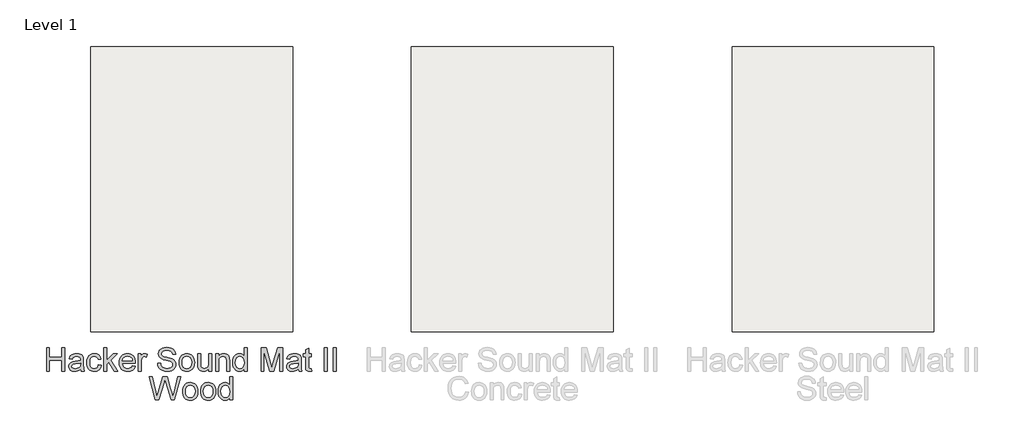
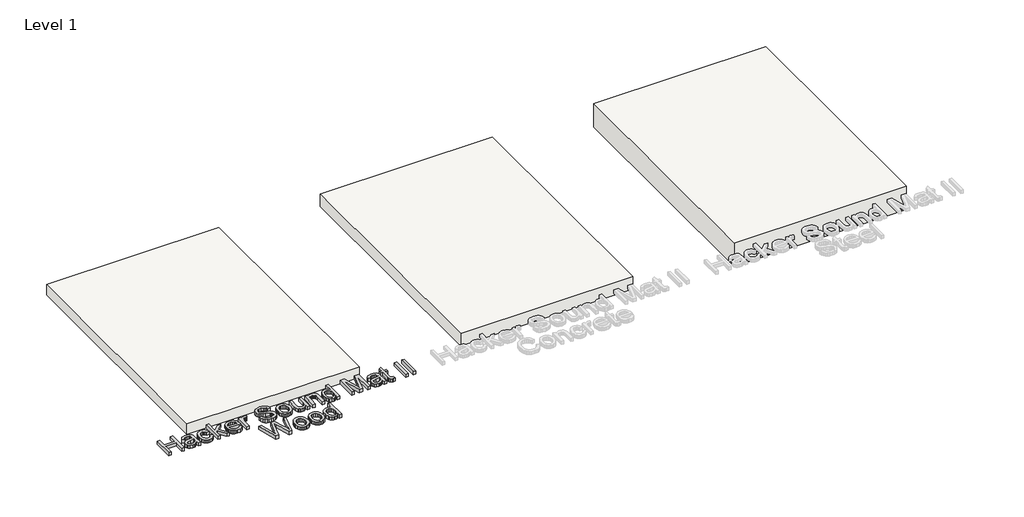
# One storey, part 1 of 3: 3 slabs, 1 proxy.
"""IFC4 building model written with IfcOpenShell, lengths in millimetres."""

from ifc_helpers import new_model, si_unit, frame, origin, origin_with_axes, place, context, project, spatial, polyline, outline, extrude, element, save

model = new_model("IFC4")

# Units and contexts
model_context = context("Model", 3, world=origin())
ifc_project = project(units=[si_unit("LENGTHUNIT", "METRE", prefix="MILLI")], contexts=[model_context])

# Site, building, storey
site = spatial("IfcSite", under=ifc_project)
building = spatial("IfcBuilding", under=site)
storey = spatial("IfcBuildingStorey", under=building, Name="Level 1", Elevation=0.0)

# Proxy
placement = place(None, origin())
element("IfcBuildingElementProxy", 1, Name="600mm Arial", ObjectType="600mm Arial", at=placement, inside=storey, context=model_context, shape_type="SweptSolid", body=[
    extrude(outline(polyline([(3005.5560774, -15959.6490726), (3005.5560774, -15659.5383034), (3043.0699235, -15659.5383034), (3043.0699235, -15781.4583034), (3202.5037697, -15781.4583034), (3202.5037697, -15659.5383034), (3240.0176159, -15659.5383034), (3240.0176159, -15959.6490726), (3202.5037697, -15959.6490726), (3202.5037697, -15818.9721496), (3043.0699235, -15818.9721496), (3043.0699235, -15959.6490726), (3005.5560774, -15959.6490726)])), origin_with_axes(), (0.0, 0.0, 1.0), 50.8),
    extrude(outline(polyline([(3441.6545389, -15931.513688), (3423.7310534, -15946.8819092), (3405.2763659, -15956.9381111), (3385.8691784, -15962.4882553), (3365.0881928, -15964.3383034), (3333.7381207, -15959.8871976), (3310.6125197, -15946.5338803), (3296.3524957, -15926.2566207), (3291.5991543, -15901.033688), (3293.3942505, -15885.4822938), (3298.7795389, -15871.3596496), (3307.086438, -15859.2702265), (3317.6463659, -15849.8184957), (3343.9133851, -15837.5092649), (3376.3716543, -15831.8675342), (3414.7280966, -15825.9327265), (3441.4347312, -15818.9721496), (3441.6545389, -15810.6194572), (3439.0717985, -15793.877438), (3431.3235774, -15782.923688), (3413.9954043, -15774.7908034), (3389.8531928, -15772.0798419), (3367.5060774, -15773.8840967), (3351.8997312, -15779.2968611), (3341.2573755, -15789.3072697), (3333.8022312, -15804.9044572), (3296.2883851, -15800.2152265), (3302.800188, -15779.6998419), (3312.5175197, -15763.5806111), (3326.347087, -15751.253063), (3345.1955966, -15742.1127265), (3368.2479284, -15736.4526784), (3394.688962, -15734.5659957), (3420.0492745, -15736.2328707), (3440.1525197, -15741.2334957), (3455.3100918, -15748.7527505), (3465.8333851, -15757.9755149), (3472.8122793, -15769.378039), (3477.3366543, -15783.4365726), (3479.1683851, -15816.261188), (3479.1683851, -15862.933688), (3481.0733851, -15928.1066688), (3488.5468466, -15959.6490726), (3451.0330005, -15959.6490726), (3441.6545389, -15931.513688)]), holes=[polyline([(3441.6545389, -15856.4859957), (3381.1341543, -15867.9892649), (3348.8590582, -15874.0706111), (3334.2418466, -15883.9619572), (3329.1130005, -15898.3959957), (3331.9063899, -15909.5512361), (3340.2865582, -15918.6915726), (3354.0703322, -15924.7912361), (3373.0745389, -15926.8244572), (3393.2235774, -15924.5805871), (3411.0280005, -15917.8489765), (3425.4620389, -15907.9301544), (3435.4999235, -15896.1246496), (3439.9510293, -15883.9619572), (3441.4347312, -15867.1100342), (3441.6545389, -15856.4859957)])]), origin_with_axes(), (0.0, 0.0, 1.0), 50.8),
    extrude(outline(polyline([(3671.4268466, -15879.9321496), (3708.9406928, -15884.6213803), (3698.4815101, -15917.9863563), (3678.8270389, -15943.2001303), (3651.8273274, -15959.0537601), (3619.3324235, -15964.3383034), (3598.292706, -15962.4951243), (3579.4281687, -15956.9655871), (3562.7388118, -15947.7496916), (3548.2246351, -15934.847438), (3536.4763719, -15918.5015306), (3528.0847553, -15898.9546736), (3523.0497853, -15876.2068671), (3521.371462, -15850.2581111), (3524.2381207, -15816.8748178), (3532.8380966, -15787.9426303), (3547.3087697, -15764.5789044), (3567.7875197, -15747.9009957), (3592.2869187, -15737.8997457), (3618.8195389, -15734.5659957), (3650.5176399, -15739.1453226), (3675.8596351, -15752.8833034), (3694.039563, -15775.0472457), (3704.251462, -15804.9044572), (3666.7376159, -15809.593688), (3659.932736, -15793.2271736), (3649.3361735, -15781.494938), (3635.5340822, -15774.4336159), (3619.1126159, -15772.0798419), (3594.8696591, -15776.7141207), (3575.6273274, -15790.6169572), (3563.070813, -15814.5393611), (3558.8853082, -15849.2323419), (3562.9792264, -15884.392414), (3575.2609812, -15908.3972457), (3594.1552841, -15922.2176544), (3618.0868466, -15926.8244572), (3637.5123514, -15923.9486399), (3653.4392505, -15915.321188), (3665.0249476, -15900.7222938), (3671.4268466, -15879.9321496)])), origin_with_axes(), (0.0, 0.0, 1.0), 50.8),
    extrude(outline(polyline([(3741.7653082, -15959.6490726), (3741.7653082, -15659.5383034), (3779.2791543, -15659.5383034), (3779.2791543, -15820.8038803), (3863.3922312, -15739.2552265), (3915.2668466, -15739.2552265), (3830.1280005, -15821.8296496), (3919.9560774, -15959.6490726), (3876.1410774, -15959.6490726), (3803.2381928, -15847.9134957), (3779.2791543, -15871.1398419), (3779.2791543, -15959.6490726), (3741.7653082, -15959.6490726)])), origin_with_axes(), (0.0, 0.0, 1.0), 50.8),
    extrude(outline(polyline([(4107.0856928, -15893.9998419), (4143.8668466, -15898.6890726), (4130.6142745, -15926.4031592), (4109.4669428, -15947.1200342), (4080.9011014, -15960.0337361), (4045.3930005, -15964.3383034), (4022.1162817, -15962.4813863), (4001.3765101, -15956.9106351), (3983.1736856, -15947.6260498), (3967.5078082, -15934.6276303), (3954.9100798, -15918.2771435), (3945.9117024, -15898.9363563), (3940.512676, -15876.6052685), (3938.7130005, -15851.2838803), (3940.5309933, -15825.1038683), (3945.9849716, -15802.0286399), (3955.0749356, -15782.0581952), (3967.8008851, -15765.1925342), (3983.4255485, -15751.7934236), (4001.2116543, -15742.2226303), (4021.1592024, -15736.4801544), (4043.2681928, -15734.5659957), (4064.6650978, -15736.475575), (4084.0150437, -15742.204313), (4101.3180305, -15751.7522096), (4116.5740582, -15765.1192649), (4129.0275377, -15781.9482914), (4137.9228803, -15801.8821015), (4143.2600858, -15824.9206952), (4145.0391543, -15851.0640726), (4144.8193466, -15861.1752265), (3976.2268466, -15861.1752265), (3982.7203322, -15889.2556592), (3997.8046351, -15909.8992649), (4019.5747553, -15922.5931592), (4046.1256928, -15926.8244572), (4066.0915582, -15924.8645053), (4082.9068466, -15918.9846496), (4096.5715582, -15908.8185438), (4107.0856928, -15893.9998419)]), holes=[polyline([(3976.2268466, -15823.6613803), (4107.5253082, -15823.6613803), (4102.4514139, -15803.8420534), (4092.5051159, -15789.6644572), (4070.6342505, -15776.4759957), (4043.1216543, -15772.0798419), (4017.834611, -15775.5876063), (3996.9254043, -15786.1108996), (3982.3906207, -15802.5140486), (3976.2268466, -15823.6613803)])]), origin_with_axes(), (0.0, 0.0, 1.0), 50.8),
    extrude(outline(polyline([(4182.5530005, -15959.6490726), (4182.5530005, -15739.2552265), (4215.3776159, -15739.2552265), (4215.3776159, -15771.8600342), (4227.5036735, -15752.9565726), (4238.6772312, -15741.8196496), (4249.8874235, -15736.3794092), (4262.1233851, -15734.5659957), (4280.8070389, -15737.4601303), (4299.7837697, -15746.1425342), (4287.2547312, -15779.7731111), (4274.0662697, -15774.0031592), (4260.8778082, -15772.0798419), (4249.6767745, -15773.9298899), (4239.6663659, -15779.4800342), (4231.5792745, -15788.3089765), (4226.1481928, -15799.9954188), (4221.5871832, -15820.9504188), (4220.0668466, -15843.8104188), (4220.0668466, -15959.6490726), (4182.5530005, -15959.6490726)])), origin_with_axes(), (0.0, 0.0, 1.0), 50.8),
    extrude(outline(polyline([(4431.0822312, -15856.4859957), (4468.5960774, -15856.4859957), (4472.9006447, -15877.3036159), (4480.6855005, -15894.0364765), (4492.8298755, -15907.3165246), (4510.2130005, -15917.7757072), (4531.4610774, -15924.5622697), (4555.2003082, -15926.8244572), (4576.1003562, -15925.111789), (4594.3993466, -15919.9737842), (4609.2272072, -15911.8408996), (4619.7138659, -15901.1435919), (4625.9509091, -15888.8618371), (4628.0299235, -15875.9756111), (4626.4729524, -15863.4190967), (4621.8020389, -15852.5660919), (4612.3136735, -15843.3066928), (4596.3043466, -15835.5309957), (4541.6821351, -15821.2068611), (4505.8260053, -15811.7276544), (4482.8835774, -15802.7063803), (4464.2090822, -15790.0857553), (4450.9748274, -15774.7908034), (4443.0892264, -15757.1512361), (4440.4606928, -15737.4967649), (4443.7120149, -15715.5251544), (4453.4659812, -15695.0372457), (4469.4661495, -15677.672438), (4491.4560774, -15665.0701303), (4517.8513178, -15657.4043371), (4547.0674235, -15654.8490726), (4578.7197312, -15657.5233996), (4606.4155005, -15665.5463803), (4629.1655966, -15678.7531592), (4645.9808851, -15696.9788803), (4656.6232409, -15719.0878707), (4660.8545389, -15743.9444572), (4623.3406928, -15743.9444572), (4616.4533851, -15721.5607072), (4602.0926159, -15705.4048419), (4579.6539139, -15695.6233996), (4548.5328082, -15692.3629188), (4516.6790101, -15695.5867649), (4494.826462, -15705.2583034), (4482.1875197, -15719.4908515), (4477.9745389, -15736.3977265), (4480.9602601, -15750.8134476), (4489.9174235, -15762.4083034), (4511.0922312, -15772.7758996), (4551.1705005, -15783.3633034), (4592.5309812, -15793.4195053), (4617.5524235, -15802.1934957), (4638.9378803, -15815.8032553), (4653.8573274, -15832.6002265), (4662.6221591, -15852.4012361), (4665.5437697, -15875.0231111), (4662.1825437, -15898.1487121), (4652.0988659, -15919.9005149), (4635.7048755, -15938.6208034), (4613.412712, -15952.6518611), (4586.6053322, -15961.4166928), (4556.6656928, -15964.3383034), (4519.9120149, -15961.1877265), (4489.6609812, -15951.7359957), (4465.564563, -15935.9464765), (4447.2747312, -15913.7825342), (4435.533337, -15886.7828226), (4431.0822312, -15856.4859957)])), origin_with_axes(), (0.0, 0.0, 1.0), 50.8),
    extrude(outline(polyline([(4707.7468466, -15849.4521496), (4709.7754885, -15820.9092048), (4715.8614139, -15796.3136399), (4726.0046231, -15775.6654548), (4740.2051159, -15758.9646496), (4754.5017745, -15748.2902385), (4770.2821351, -15740.6656592), (4787.5461976, -15736.0909116), (4806.293962, -15734.5659957), (4826.99023, -15736.4229128), (4845.7036495, -15741.993664), (4862.4342204, -15751.2782493), (4877.1819428, -15764.2766688), (4889.2187036, -15780.549307), (4897.8163899, -15799.6565486), (4902.9750017, -15821.5983935), (4904.6945389, -15846.3748419), (4901.6538659, -15884.2733515), (4892.5318466, -15913.1231111), (4877.5940822, -15934.7283755), (4857.1061735, -15950.8933996), (4832.7716303, -15960.9770774), (4806.293962, -15964.3383034), (4785.2954584, -15962.4882553), (4766.4080245, -15956.9381111), (4749.6316603, -15947.6878707), (4734.9663659, -15934.7375342), (4723.0578262, -15918.3069092), (4714.5517264, -15898.6158034), (4709.4480666, -15875.6642169), (4707.7468466, -15849.4521496)]), holes=[polyline([(4745.2606928, -15849.3788803), (4749.6018947, -15883.3300101), (4762.6255005, -15907.5180149), (4782.2250197, -15921.9978467), (4806.293962, -15926.8244572), (4830.2530005, -15921.9703707), (4849.8158851, -15907.4081111), (4862.8394909, -15882.8995534), (4867.1806928, -15848.2065726), (4862.8120149, -15815.2445774), (4849.7059812, -15791.3862842), (4830.1156207, -15776.9064524), (4806.293962, -15772.0798419), (4782.2250197, -15776.8881351), (4762.6255005, -15791.3130149), (4749.6018947, -15815.4460678), (4745.2606928, -15849.3788803)])]), origin_with_axes(), (0.0, 0.0, 1.0), 50.8),
    extrude(outline(polyline([(5087.5745389, -15959.6490726), (5087.5745389, -15921.7688803), (5074.0014139, -15940.3930029), (5058.1935774, -15953.6959476), (5040.1510293, -15961.6777145), (5019.8737697, -15964.3383034), (5001.6022553, -15962.469938), (4984.5946351, -15956.8648419), (4970.3254524, -15948.4388803), (4960.2692505, -15938.1079188), (4949.0956928, -15910.4854188), (4946.8976159, -15875.6092649), (4946.8976159, -15739.2552265), (4984.411462, -15739.2552265), (4984.411462, -15857.9513803), (4986.6828082, -15896.1979188), (4992.1505245, -15908.9559236), (5001.5198274, -15918.654938), (5014.1679284, -15924.7820774), (5029.4720389, -15926.8244572), (5045.6553803, -15924.7362842), (5060.7946351, -15918.4717649), (5073.2778803, -15908.6078947), (5081.4931928, -15895.7216688), (5086.0542024, -15878.0729428), (5087.5745389, -15853.9215726), (5087.5745389, -15739.2552265), (5125.0883851, -15739.2552265), (5125.0883851, -15959.6490726), (5087.5745389, -15959.6490726)])), origin_with_axes(), (0.0, 0.0, 1.0), 50.8),
    extrude(outline(polyline([(5176.6699235, -15959.6490726), (5176.6699235, -15739.2552265), (5214.1837697, -15739.2552265), (5214.1837697, -15770.0283034), (5227.2165341, -15754.5135438), (5242.8686735, -15743.4315726), (5261.140188, -15736.7823899), (5282.0310774, -15734.5659957), (5300.5223995, -15736.3519332), (5317.4567505, -15741.7097457), (5331.5793947, -15749.9708515), (5341.6355966, -15760.4666688), (5352.8824235, -15788.0525342), (5354.8606928, -15824.3208034), (5354.8606928, -15959.6490726), (5317.3468466, -15959.6490726), (5317.3468466, -15829.3763803), (5313.023962, -15796.1854188), (5307.043361, -15786.3032313), (5297.7473274, -15778.637438), (5285.8319187, -15773.7192409), (5271.9931928, -15772.0798419), (5250.0215822, -15775.7616207), (5231.2921351, -15786.8069572), (5223.8072252, -15795.823652), (5218.460861, -15808.1466207), (5214.1837697, -15842.7113803), (5214.1837697, -15959.6490726), (5176.6699235, -15959.6490726)])), origin_with_axes(), (0.0, 0.0, 1.0), 50.8),
    extrude(outline(polyline([(5542.4299235, -15959.6490726), (5542.4299235, -15924.2600342), (5531.2059933, -15941.794277), (5517.6099716, -15954.3187361), (5501.6418586, -15961.8334116), (5483.3016543, -15964.3383034), (5459.0495389, -15960.7114765), (5436.848962, -15949.8309957), (5418.0554043, -15932.4570294), (5404.0243466, -15909.3497457), (5395.2869909, -15881.4433274), (5392.3745389, -15849.6719572), (5395.0580245, -15818.2944092), (5403.1084812, -15789.9575342), (5416.5167505, -15766.2732553), (5435.2736735, -15748.8534957), (5457.9596591, -15738.1378707), (5483.1551159, -15734.5659957), (5501.5090582, -15737.1212601), (5517.7381928, -15744.7870534), (5531.4944909, -15756.5376063), (5542.4299235, -15771.3471496), (5542.4299235, -15659.5383034), (5579.9437697, -15659.5383034), (5579.9437697, -15959.6490726), (5542.4299235, -15959.6490726)]), holes=[polyline([(5429.8883851, -15849.5254188), (5434.1196832, -15883.4582313), (5446.8135774, -15907.5912842), (5465.2591062, -15922.016164), (5486.7453082, -15926.8244572), (5508.2223514, -15922.2359717), (5526.2007889, -15908.4705149), (5538.3726399, -15885.2716447), (5542.4299235, -15852.3829188), (5538.2993707, -15816.4260438), (5525.907712, -15791.496188), (5507.4713418, -15776.9339284), (5485.2066543, -15772.0798419), (5463.5006447, -15776.7415967), (5445.7145389, -15790.7268611), (5433.8449235, -15814.7500101), (5429.8883851, -15849.5254188)])]), origin_with_axes(), (0.0, 0.0, 1.0), 50.8),
    extrude(outline(polyline([(5758.1345389, -15959.6490726), (5758.1345389, -15659.5383034), (5822.6847312, -15659.5383034), (5884.0843466, -15871.0665726), (5896.4668466, -15915.2479188), (5909.8751159, -15867.4031111), (5970.248962, -15659.5383034), (6034.7991543, -15659.5383034), (6034.7991543, -15959.6490726), (5997.2853082, -15959.6490726), (5997.2853082, -15697.0521496), (5921.8912697, -15959.6490726), (5871.0424235, -15959.6490726), (5795.6483851, -15697.0521496), (5795.6483851, -15959.6490726), (5758.1345389, -15959.6490726)])), origin_with_axes(), (0.0, 0.0, 1.0), 50.8),
    extrude(outline(polyline([(6236.4360774, -15931.513688), (6218.5125918, -15946.8819092), (6200.0579043, -15956.9381111), (6180.6507168, -15962.4882553), (6159.8697312, -15964.3383034), (6128.5196591, -15959.8871976), (6105.3940582, -15946.5338803), (6091.1340341, -15926.2566207), (6086.3806928, -15901.033688), (6088.1757889, -15885.4822938), (6093.5610774, -15871.3596496), (6101.8679764, -15859.2702265), (6112.4279043, -15849.8184957), (6138.6949235, -15837.5092649), (6171.1531928, -15831.8675342), (6209.5096351, -15825.9327265), (6236.2162697, -15818.9721496), (6236.4360774, -15810.6194572), (6233.853337, -15793.877438), (6226.1051159, -15782.923688), (6208.7769428, -15774.7908034), (6184.6347312, -15772.0798419), (6162.2876159, -15773.8840967), (6146.6812697, -15779.2968611), (6136.0389139, -15789.3072697), (6128.5837697, -15804.9044572), (6091.0699235, -15800.2152265), (6097.5817264, -15779.6998419), (6107.2990582, -15763.5806111), (6121.1286255, -15751.253063), (6139.9771351, -15742.1127265), (6163.0294668, -15736.4526784), (6189.4705005, -15734.5659957), (6214.830813, -15736.2328707), (6234.9340582, -15741.2334957), (6250.0916303, -15748.7527505), (6260.6149235, -15757.9755149), (6267.5938178, -15769.378039), (6272.1181928, -15783.4365726), (6273.9499235, -15816.261188), (6273.9499235, -15862.933688), (6275.8549235, -15928.1066688), (6283.3283851, -15959.6490726), (6245.8145389, -15959.6490726), (6236.4360774, -15931.513688)]), holes=[polyline([(6236.4360774, -15856.4859957), (6175.9156928, -15867.9892649), (6143.6405966, -15874.0706111), (6129.0233851, -15883.9619572), (6123.8945389, -15898.3959957), (6126.6879284, -15909.5512361), (6135.0680966, -15918.6915726), (6148.8518707, -15924.7912361), (6167.8560774, -15926.8244572), (6188.0051159, -15924.5805871), (6205.8095389, -15917.8489765), (6220.2435774, -15907.9301544), (6230.281462, -15896.1246496), (6234.7325678, -15883.9619572), (6236.2162697, -15867.1100342), (6236.4360774, -15856.4859957)])]), origin_with_axes(), (0.0, 0.0, 1.0), 50.8),
    extrude(outline(polyline([(6405.2483851, -15928.3631111), (6409.9376159, -15960.7481111), (6381.8755005, -15964.3383034), (6363.869587, -15962.7813322), (6350.4430005, -15958.1104188), (6340.9546351, -15950.9117169), (6334.7633851, -15941.7713803), (6331.3563659, -15926.0734476), (6330.2206928, -15899.2019572), (6330.2206928, -15776.7690726), (6302.0853082, -15776.7690726), (6302.0853082, -15739.2552265), (6330.2206928, -15739.2552265), (6330.2206928, -15685.6954188), (6367.7345389, -15663.6413803), (6367.7345389, -15739.2552265), (6405.2483851, -15739.2552265), (6405.2483851, -15776.7690726), (6367.7345389, -15776.7690726), (6367.7345389, -15898.1029188), (6369.7128082, -15917.4459957), (6376.1238659, -15924.2966688), (6388.9093466, -15926.8244572), (6405.2483851, -15928.3631111)])), origin_with_axes(), (0.0, 0.0, 1.0), 50.8),
    extrude(outline(polyline([(6569.371462, -15959.6490726), (6569.371462, -15659.5383034), (6606.8853082, -15659.5383034), (6606.8853082, -15959.6490726), (6569.371462, -15959.6490726)])), origin_with_axes(), (0.0, 0.0, 1.0), 50.8),
    extrude(outline(polyline([(6686.6022312, -15959.6490726), (6686.6022312, -15659.5383034), (6724.1160774, -15659.5383034), (6724.1160774, -15959.6490726), (6686.6022312, -15959.6490726)])), origin_with_axes(), (0.0, 0.0, 1.0), 50.8),
    extrude(outline(polyline([(4402.7270389, -16330.0983034), (4320.8853082, -16029.9875342), (4359.571462, -16029.9875342), (4407.0499235, -16227.2283034), (4421.7037697, -16288.1150342), (4437.3833851, -16234.2621496), (4496.8780005, -16029.9875342), (4552.6358851, -16029.9875342), (4595.8647312, -16178.0646496), (4614.3835293, -16233.0165726), (4628.0299235, -16288.1150342), (4642.2441543, -16228.9867649), (4690.1622312, -16029.9875342), (4728.8483851, -16029.9875342), (4646.9333851, -16330.0983034), (4606.8551159, -16330.0983034), (4534.9047312, -16098.5675342), (4524.8668466, -16066.2558034), (4513.5833851, -16105.1617649), (4448.0074235, -16330.0983034), (4402.7270389, -16330.0983034)])), origin_with_axes(), (0.0, 0.0, 1.0), 50.8),
    extrude(outline(polyline([(4752.2945389, -16219.9013803), (4754.3231808, -16191.3584356), (4760.4091062, -16166.7628707), (4770.5523154, -16146.1146856), (4784.7528082, -16129.4138803), (4799.0494668, -16118.7394693), (4814.8298274, -16111.1148899), (4832.0938899, -16106.5401423), (4850.8416543, -16105.0152265), (4871.5379223, -16106.8721435), (4890.2513418, -16112.4428947), (4906.9819127, -16121.7274801), (4921.7296351, -16134.7258996), (4933.7663959, -16150.9985378), (4942.3640822, -16170.1057794), (4947.522694, -16192.0476243), (4949.2422312, -16216.8240726), (4946.2015582, -16254.7225822), (4937.0795389, -16283.5723419), (4922.1417745, -16305.1776063), (4901.6538659, -16321.3426303), (4877.3193226, -16331.4263082), (4850.8416543, -16334.7875342), (4829.8431507, -16332.9374861), (4810.9557168, -16327.3873419), (4794.1793526, -16318.1371015), (4779.5140582, -16305.1867649), (4767.6055185, -16288.7561399), (4759.0994187, -16269.0650342), (4753.9957589, -16246.1134476), (4752.2945389, -16219.9013803)]), holes=[polyline([(4789.8083851, -16219.8281111), (4794.149587, -16253.7792409), (4807.1731928, -16277.9672457), (4826.772712, -16292.4470774), (4850.8416543, -16297.273688), (4874.8006928, -16292.4196015), (4894.3635774, -16277.8573419), (4907.3871832, -16253.3487842), (4911.7283851, -16218.6558034), (4907.3597072, -16185.6938082), (4894.2536735, -16161.8355149), (4874.663313, -16147.3556832), (4850.8416543, -16142.5290726), (4826.772712, -16147.3373659), (4807.1731928, -16161.7622457), (4794.149587, -16185.8952986), (4789.8083851, -16219.8281111)])]), origin_with_axes(), (0.0, 0.0, 1.0), 50.8),
    extrude(outline(polyline([(4982.0668466, -16219.9013803), (4984.0954885, -16191.3584356), (4990.1814139, -16166.7628707), (5000.3246231, -16146.1146856), (5014.5251159, -16129.4138803), (5028.8217745, -16118.7394693), (5044.6021351, -16111.1148899), (5061.8661976, -16106.5401423), (5080.613962, -16105.0152265), (5101.31023, -16106.8721435), (5120.0236495, -16112.4428947), (5136.7542204, -16121.7274801), (5151.5019428, -16134.7258996), (5163.5387036, -16150.9985378), (5172.1363899, -16170.1057794), (5177.2950017, -16192.0476243), (5179.0145389, -16216.8240726), (5175.9738659, -16254.7225822), (5166.8518466, -16283.5723419), (5151.9140822, -16305.1776063), (5131.4261735, -16321.3426303), (5107.0916303, -16331.4263082), (5080.613962, -16334.7875342), (5059.6154584, -16332.9374861), (5040.7280245, -16327.3873419), (5023.9516603, -16318.1371015), (5009.2863659, -16305.1867649), (4997.3778262, -16288.7561399), (4988.8717264, -16269.0650342), (4983.7680666, -16246.1134476), (4982.0668466, -16219.9013803)]), holes=[polyline([(5019.5806928, -16219.8281111), (5023.9218947, -16253.7792409), (5036.9455005, -16277.9672457), (5056.5450197, -16292.4470774), (5080.613962, -16297.273688), (5104.5730005, -16292.4196015), (5124.1358851, -16277.8573419), (5137.1594909, -16253.3487842), (5141.5006928, -16218.6558034), (5137.1320149, -16185.6938082), (5124.0259812, -16161.8355149), (5104.4356207, -16147.3556832), (5080.613962, -16142.5290726), (5056.5450197, -16147.3373659), (5036.9455005, -16161.7622457), (5023.9218947, -16185.8952986), (5019.5806928, -16219.8281111)])]), origin_with_axes(), (0.0, 0.0, 1.0), 50.8),
    extrude(outline(polyline([(5357.2053082, -16330.0983034), (5357.2053082, -16294.7092649), (5345.9813779, -16312.2435077), (5332.3853562, -16324.7679669), (5316.4172433, -16332.2826423), (5298.0770389, -16334.7875342), (5273.8249235, -16331.1607072), (5251.6243466, -16320.2802265), (5232.8307889, -16302.9062601), (5218.7997312, -16279.7989765), (5210.0623755, -16251.8925582), (5207.1499235, -16220.121188), (5209.8334091, -16188.7436399), (5217.8838659, -16160.4067649), (5231.2921351, -16136.7224861), (5250.0490582, -16119.3027265), (5272.7350437, -16108.5871015), (5297.9305005, -16105.0152265), (5316.2844428, -16107.5704909), (5332.5135774, -16115.2362842), (5346.2698755, -16126.9868371), (5357.2053082, -16141.7963803), (5357.2053082, -16029.9875342), (5394.7191543, -16029.9875342), (5394.7191543, -16330.0983034), (5357.2053082, -16330.0983034)]), holes=[polyline([(5244.6637697, -16219.9746496), (5248.8950678, -16253.9074621), (5261.588962, -16278.0405149), (5280.0344909, -16292.4653947), (5301.5206928, -16297.273688), (5322.997736, -16292.6852024), (5340.9761735, -16278.9197457), (5353.1480245, -16255.7208755), (5357.2053082, -16222.8321496), (5353.0747553, -16186.8752746), (5340.6830966, -16161.9454188), (5322.2467264, -16147.3831592), (5299.9820389, -16142.5290726), (5278.2760293, -16147.1908274), (5260.4899235, -16161.1760919), (5248.6203082, -16185.1992409), (5244.6637697, -16219.9746496)])]), origin_with_axes(), (0.0, 0.0, 1.0), 50.8),
])

# Slabs
element("IfcSlab", 2, ObjectType="Hacker - Wood - Subfloor - Hacker Sound Mat II", at=placement, inside=storey, context=model_context, shape_type="SweptSolid", body=[
    extrude(outline(polyline([(6164.9253082, -11794.0490726), (6164.9253082, -15451.6490726), (3574.1253082, -15451.6490726), (3574.1253082, -11794.0490726), (6164.9253082, -11794.0490726)])), frame((0.0, 0.0, -168.4734375), z_axis=(0.0, 0.0, 1.0), x_axis=(1.0, 0.0, 0.0)), (0.0, 0.0, 1.0), 168.4734375),
])
element("IfcSlab", 3, ObjectType="Hacker - Concrete - Subfloor - Hacker Sound Mat II", at=placement, inside=storey, context=model_context, shape_type="SweptSolid", body=[
    extrude(outline(polyline([(10279.7253082, -11794.0490726), (10279.7253082, -15451.6490726), (7688.9253082, -15451.6490726), (7688.9253082, -11794.0490726), (10279.7253082, -11794.0490726)])), frame((0.0, 0.0, -196.9492188), z_axis=(0.0, 0.0, 1.0), x_axis=(1.0, 0.0, 0.0)), (0.0, 0.0, 1.0), 196.9492188),
])
element("IfcSlab", 4, ObjectType="Hacker - Steel - Subfloor - Hacker Sound Mat II", at=placement, inside=storey, context=model_context, shape_type="SweptSolid", body=[
    extrude(outline(polyline([(14394.5253082, -11794.0490726), (14394.5253082, -15451.6490726), (11803.7253082, -15451.6490726), (11803.7253082, -11794.0490726), (14394.5253082, -11794.0490726)])), frame((0.0, 0.0, -377.9242187), z_axis=(0.0, 0.0, 1.0), x_axis=(1.0, 0.0, 0.0)), (0.0, 0.0, 1.0), 377.9242187),
])

save(model, "model.ifc")
